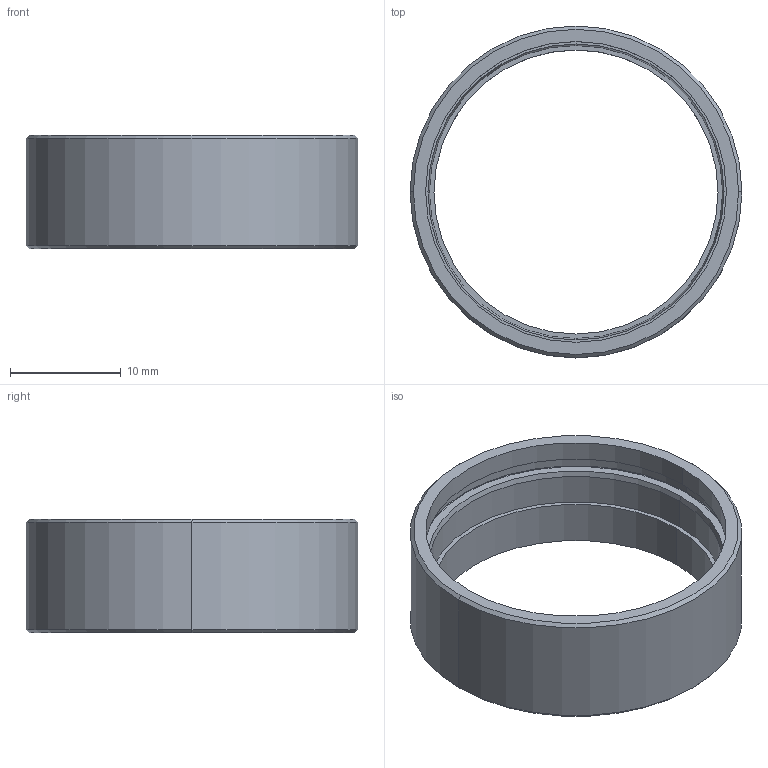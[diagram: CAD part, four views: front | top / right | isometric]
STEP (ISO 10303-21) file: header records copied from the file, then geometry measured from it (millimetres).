
FILE_DESCRIPTION (( 'STEP AP214' ), '1' );
FILE_NAME ('ZAS-179023 Adapter SM1 innen für Demo-Video_180327.STEP', '2018-03-27T11:48:03', ( '' ), ( '' ), 'SwSTEP 2.0', 'SolidWorks 2018', '' );
FILE_SCHEMA (( 'AUTOMOTIVE_DESIGN' ));
Length unit declared in the file: millimetre
Products named in the file (1): ZAS-179023 Adapter SM1 innen f黵 Demo-Video_180327
Bounding box: 30 x 30 x 10.3 mm (x, y, z)
Volume: 1585.5 mm3; surface area: 2236.9 mm2
Topology: 1 solids, 1 shells, 26 faces, 52 edges, 30 vertices
Faces by surface type: cylinder 10, cone 8, torus 4, plane 4
Entity records: 716 total; most frequent: DIRECTION 140, CARTESIAN_POINT 109, ORIENTED_EDGE 104, AXIS2_PLACEMENT_3D 61, EDGE_CURVE 52, CIRCLE 34, EDGE_LOOP 30, VERTEX_POINT 30
